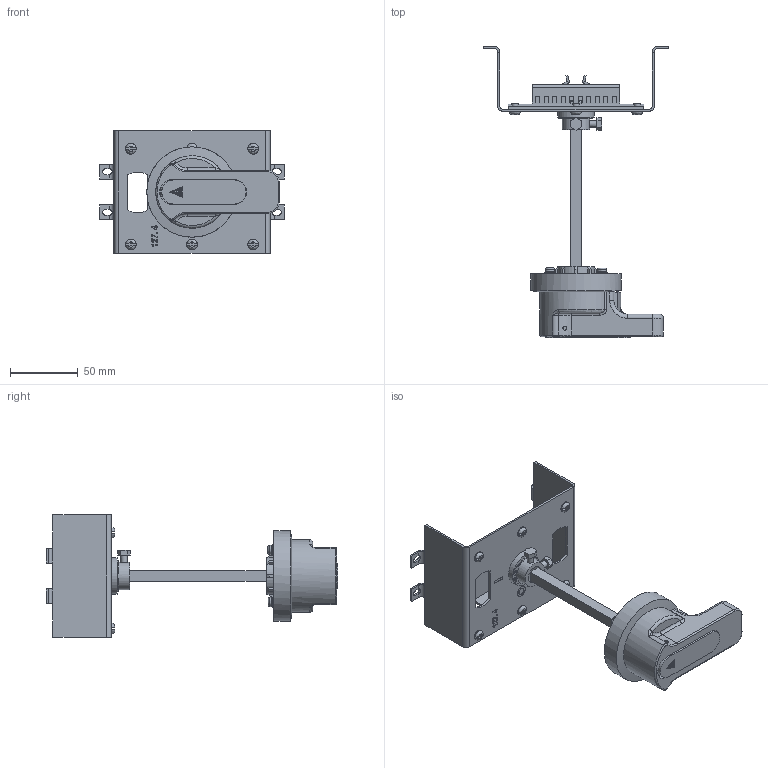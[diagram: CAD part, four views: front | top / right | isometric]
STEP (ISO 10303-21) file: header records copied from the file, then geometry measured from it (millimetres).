
FILE_DESCRIPTION(/* description */ (''),/* implementation_level */ '2;1');
FILE_NAME(/* name */ '_model1.stp',/* time_stamp */ '2025-09-24T10:06:42+08:00',/* author */ (''),/* organization */ (''),/* preprocessor_version */ 'ST-DEVELOPER v16',/* originating_system */ 'SIEMENS PLM Software NX 10.0',/* authorisation */ '');
FILE_SCHEMA (('AUTOMOTIVE_DESIGN { 1 0 10303 214 3 1 1 1 }'));
Products named in the file (1): midi514C04092frt
Bounding box: 136 x 214.8 x 90 mm (x, y, z)
Volume: 54573.4 mm3; surface area: 92536.6 mm2
Topology: 4 solids, 5 shells, 987 faces, 2689 edges, 1726 vertices
Faces by surface type: plane 676, cylinder 188, bspline 46, cone 44, torus 25, extrusion 7, sphere 1
Full cylindrical faces by diameter (mm): 2 x2, 2.7 x2, 3 x3, 3.5 x8, 3.8 x3, 4 x5, 4.18 x2, 4.4 x2, 4.542 x1, 4.75 x2, 4.8 x6, 5 x1, 7.8 x6, 8 x3, 20 x1, 23.5 x1, 26.8 x1, 66.5 x1
Entity records: 53618 total; most frequent: CARTESIAN_POINT 29467, ORIENTED_EDGE 5050, DIRECTION 4728, EDGE_CURVE 2525, VECTOR 1744, LINE 1737, VERTEX_POINT 1679, AXIS2_PLACEMENT_3D 1492
